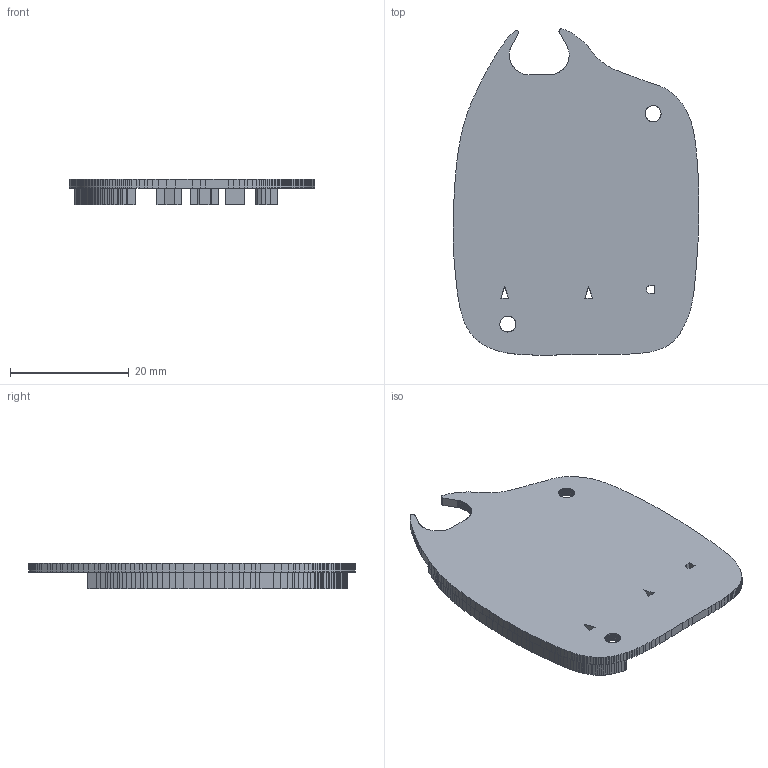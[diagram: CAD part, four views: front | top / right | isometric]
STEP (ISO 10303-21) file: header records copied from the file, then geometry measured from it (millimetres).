
FILE_DESCRIPTION(('Open CASCADE Model'),'2;1');
FILE_NAME('Open CASCADE Shape Model','2026-10-15T03:32:05',('Author'),( 'Open CASCADE'),'Open CASCADE STEP processor 7.9','Open CASCADE 7.9' ,'Unknown');
FILE_SCHEMA(('AUTOMOTIVE_DESIGN { 1 0 10303 214 1 1 1 1 }'));
Length unit declared in the file: millimetre
Products named in the file (1): Open CASCADE STEP translator 7.9 6
Bounding box: 41.5 x 55.06 x 4.3 mm (x, y, z)
Volume: 3112 mm3; surface area: 4594.4 mm2
Topology: 1 solids, 1 shells, 718 faces, 2121 edges, 1414 vertices
Faces by surface type: plane 718
Entity records: 50654 total; most frequent: CARTESIAN_POINT 8890, DIRECTION 7407, LINE 5969, VECTOR 5969, ORIENTED_EDGE 4242, PCURVE 4242, DEFINITIONAL_REPRESENTATION 4242, EDGE_CURVE 2121
